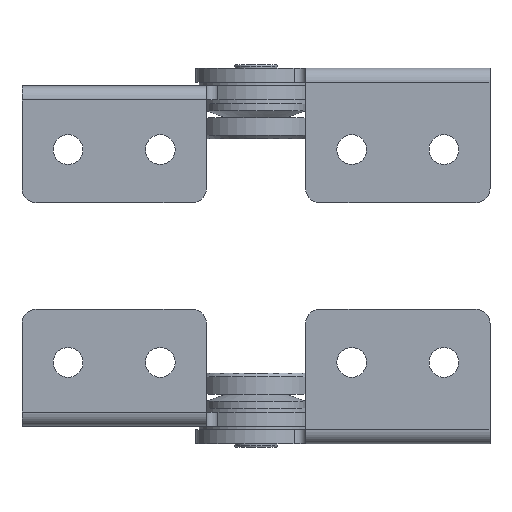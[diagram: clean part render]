
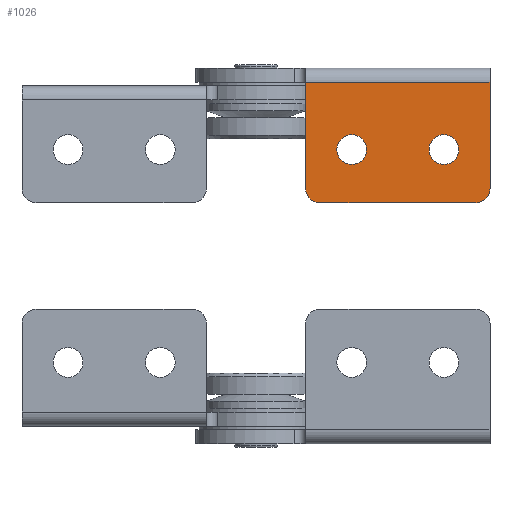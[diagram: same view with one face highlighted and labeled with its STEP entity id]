
A CAD part, front view. The second image highlights one B-rep face of the part: STEP entity #1026.
In plain terms, the highlighted planar face has unit normal (0, -1, 0).
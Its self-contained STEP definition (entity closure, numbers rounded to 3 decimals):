
#141 = CIRCLE ( 'NONE', #3954, 2.545 ) ;
#163 = ORIENTED_EDGE ( 'NONE', *, *, #1358, .T. ) ;
#227 = AXIS2_PLACEMENT_3D ( 'NONE', #2604, #3217, #3234 ) ;
#233 = ORIENTED_EDGE ( 'NONE', *, *, #3973, .F. ) ;
#269 = CIRCLE ( 'NONE', #1047, 2.424 ) ;
#396 = EDGE_CURVE ( 'NONE', #794, #1564, #3765, .T. ) ;
#406 = VECTOR ( 'NONE', #599, 1000. ) ;
#432 = DIRECTION ( 'NONE',  ( 0., 0., -1. ) ) ;
#538 = CARTESIAN_POINT ( 'NONE',  ( 16.237, -1.191, -10.583 ) ) ;
#540 = EDGE_CURVE ( 'NONE', #3130, #1844, #947, .T. ) ;
#565 = ORIENTED_EDGE ( 'NONE', *, *, #396, .T. ) ;
#581 = VERTEX_POINT ( 'NONE', #753 ) ;
#599 = DIRECTION ( 'NONE',  ( 0., 0., -1. ) ) ;
#664 = CARTESIAN_POINT ( 'NONE',  ( 16.237, -1.191, -13.128 ) ) ;
#691 = LINE ( 'NONE', #2620, #1732 ) ;
#717 = VERTEX_POINT ( 'NONE', #2119 ) ;
#723 = FACE_BOUND ( 'NONE', #1733, .T. ) ;
#748 = VECTOR ( 'NONE', #1518, 1000. ) ;
#753 = CARTESIAN_POINT ( 'NONE',  ( 31.994, -1.191, -13.128 ) ) ;
#757 = CARTESIAN_POINT ( 'NONE',  ( 37.449, -1.191, -17.25 ) ) ;
#794 = VERTEX_POINT ( 'NONE', #3172 ) ;
#891 = AXIS2_PLACEMENT_3D ( 'NONE', #538, #1487, #1776 ) ;
#922 = CARTESIAN_POINT ( 'NONE',  ( 16.237, -1.191, -10.583 ) ) ;
#947 = CIRCLE ( 'NONE', #227, 2.424 ) ;
#972 = CARTESIAN_POINT ( 'NONE',  ( 37.449, -1.191, -19.674 ) ) ;
#1004 = CARTESIAN_POINT ( 'NONE',  ( 31.994, -1.191, -10.583 ) ) ;
#1026 = ADVANCED_FACE ( 'NONE', ( #2640, #723, #1986 ), #3247, .F. ) ;
#1047 = AXIS2_PLACEMENT_3D ( 'NONE', #757, #1670, #3239 ) ;
#1072 = DIRECTION ( 'NONE',  ( 0., 0., -1. ) ) ;
#1085 = VERTEX_POINT ( 'NONE', #2972 ) ;
#1113 = ORIENTED_EDGE ( 'NONE', *, *, #2173, .F. ) ;
#1130 = CARTESIAN_POINT ( 'NONE',  ( 8.358, -1.191, 0.932 ) ) ;
#1136 = EDGE_LOOP ( 'NONE', ( #1574, #565, #2151, #1969, #163, #1469 ) ) ;
#1349 = DIRECTION ( 'NONE',  ( 0., 0., -1. ) ) ;
#1358 = EDGE_CURVE ( 'NONE', #1844, #1957, #3800, .T. ) ;
#1469 = ORIENTED_EDGE ( 'NONE', *, *, #3326, .T. ) ;
#1481 = DIRECTION ( 'NONE',  ( 0., 0., -1. ) ) ;
#1487 = DIRECTION ( 'NONE',  ( 0., -1., 0. ) ) ;
#1518 = DIRECTION ( 'NONE',  ( 1., 0., 0. ) ) ;
#1564 = VERTEX_POINT ( 'NONE', #1130 ) ;
#1565 = DIRECTION ( 'NONE',  ( -1., 0., 0. ) ) ;
#1574 = ORIENTED_EDGE ( 'NONE', *, *, #1712, .F. ) ;
#1670 = DIRECTION ( 'NONE',  ( 0., -1., 0. ) ) ;
#1678 = DIRECTION ( 'NONE',  ( 0., 1., 0. ) ) ;
#1712 = EDGE_CURVE ( 'NONE', #794, #717, #3428, .T. ) ;
#1717 = ORIENTED_EDGE ( 'NONE', *, *, #2260, .F. ) ;
#1732 = VECTOR ( 'NONE', #1072, 1000. ) ;
#1733 = EDGE_LOOP ( 'NONE', ( #233, #1113 ) ) ;
#1776 = DIRECTION ( 'NONE',  ( 0., 0., -1. ) ) ;
#1844 = VERTEX_POINT ( 'NONE', #3527 ) ;
#1915 = EDGE_CURVE ( 'NONE', #3167, #581, #141, .T. ) ;
#1933 = AXIS2_PLACEMENT_3D ( 'NONE', #922, #2182, #1481 ) ;
#1957 = VERTEX_POINT ( 'NONE', #3811 ) ;
#1969 = ORIENTED_EDGE ( 'NONE', *, *, #540, .T. ) ;
#1986 = FACE_BOUND ( 'NONE', #2018, .T. ) ;
#2018 = EDGE_LOOP ( 'NONE', ( #1717, #2202 ) ) ;
#2119 = CARTESIAN_POINT ( 'NONE',  ( 39.873, -1.191, -17.25 ) ) ;
#2151 = ORIENTED_EDGE ( 'NONE', *, *, #2245, .T. ) ;
#2170 = CARTESIAN_POINT ( 'NONE',  ( 39.873, -1.191, 3.356 ) ) ;
#2173 = EDGE_CURVE ( 'NONE', #1085, #3756, #3708, .T. ) ;
#2182 = DIRECTION ( 'NONE',  ( 0., -1., 0. ) ) ;
#2202 = ORIENTED_EDGE ( 'NONE', *, *, #1915, .F. ) ;
#2245 = EDGE_CURVE ( 'NONE', #1564, #3130, #691, .T. ) ;
#2260 = EDGE_CURVE ( 'NONE', #581, #3167, #2780, .T. ) ;
#2267 = DIRECTION ( 'NONE',  ( 0., -1., 0. ) ) ;
#2335 = CIRCLE ( 'NONE', #891, 2.545 ) ;
#2604 = CARTESIAN_POINT ( 'NONE',  ( 10.783, -1.191, -17.25 ) ) ;
#2619 = DIRECTION ( 'NONE',  ( 1., 0., 0. ) ) ;
#2620 = CARTESIAN_POINT ( 'NONE',  ( 8.358, -1.191, 3.356 ) ) ;
#2640 = FACE_OUTER_BOUND ( 'NONE', #1136, .T. ) ;
#2674 = CARTESIAN_POINT ( 'NONE',  ( 31.994, -1.191, -8.038 ) ) ;
#2780 = CIRCLE ( 'NONE', #3314, 2.545 ) ;
#2857 = CARTESIAN_POINT ( 'NONE',  ( 8.358, -1.191, 0.932 ) ) ;
#2972 = CARTESIAN_POINT ( 'NONE',  ( 16.237, -1.191, -8.038 ) ) ;
#3130 = VERTEX_POINT ( 'NONE', #3640 ) ;
#3167 = VERTEX_POINT ( 'NONE', #2674 ) ;
#3172 = CARTESIAN_POINT ( 'NONE',  ( 39.873, -1.191, 0.932 ) ) ;
#3217 = DIRECTION ( 'NONE',  ( 0., -1., 0. ) ) ;
#3231 = CARTESIAN_POINT ( 'NONE',  ( 31.994, -1.191, -10.583 ) ) ;
#3234 = DIRECTION ( 'NONE',  ( 0., 0., 1. ) ) ;
#3239 = DIRECTION ( 'NONE',  ( 0., 0., -1. ) ) ;
#3247 = PLANE ( 'NONE',  #3959 ) ;
#3248 = DIRECTION ( 'NONE',  ( 0., -1., 0. ) ) ;
#3270 = CARTESIAN_POINT ( 'NONE',  ( 8.358, -1.191, 3.356 ) ) ;
#3314 = AXIS2_PLACEMENT_3D ( 'NONE', #3231, #3248, #1349 ) ;
#3326 = EDGE_CURVE ( 'NONE', #1957, #717, #269, .T. ) ;
#3428 = LINE ( 'NONE', #2170, #406 ) ;
#3527 = CARTESIAN_POINT ( 'NONE',  ( 10.783, -1.191, -19.674 ) ) ;
#3640 = CARTESIAN_POINT ( 'NONE',  ( 8.358, -1.191, -17.25 ) ) ;
#3649 = VECTOR ( 'NONE', #1565, 1000. ) ;
#3708 = CIRCLE ( 'NONE', #1933, 2.545 ) ;
#3756 = VERTEX_POINT ( 'NONE', #664 ) ;
#3765 = LINE ( 'NONE', #2857, #3649 ) ;
#3800 = LINE ( 'NONE', #972, #748 ) ;
#3811 = CARTESIAN_POINT ( 'NONE',  ( 37.449, -1.191, -19.674 ) ) ;
#3954 = AXIS2_PLACEMENT_3D ( 'NONE', #1004, #2267, #432 ) ;
#3959 = AXIS2_PLACEMENT_3D ( 'NONE', #3270, #1678, #2619 ) ;
#3973 = EDGE_CURVE ( 'NONE', #3756, #1085, #2335, .T. ) ;
